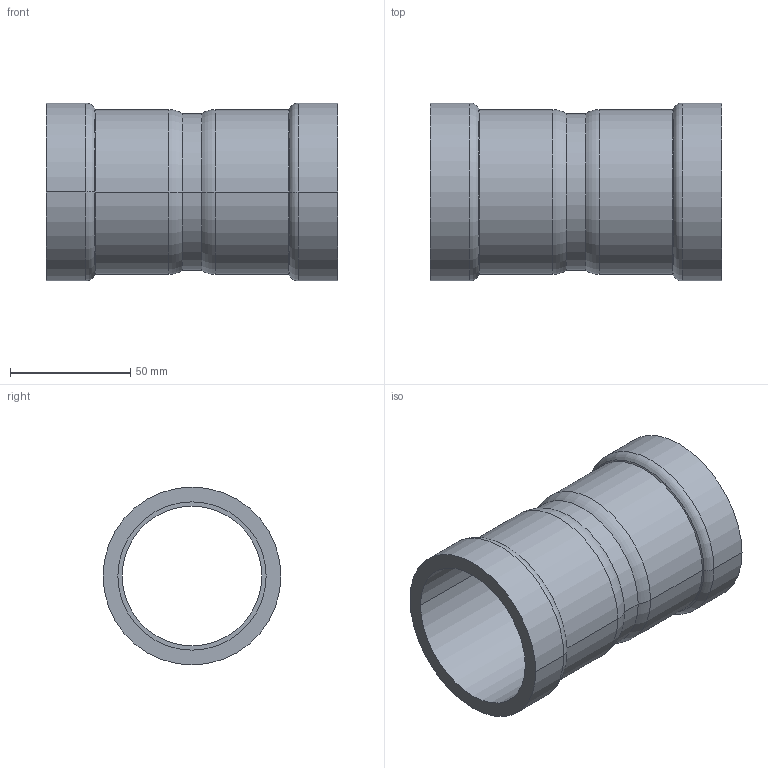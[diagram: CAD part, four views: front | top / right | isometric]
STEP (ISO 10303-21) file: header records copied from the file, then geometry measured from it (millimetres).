
FILE_DESCRIPTION(('Creo Elements/Direct Modeling STEP Export'),'2;1');
FILE_NAME('C9401_2.stp','2020-06-08T13:59:45',(''),(''),'PTC Creo Elements/Direct Modeling STEP processor for AP214 (Solid Model)','PTC Creo Elements/Direct Modeling 19.0C 15-Aug-2015 (C) Parametric Technology GmbH','');
FILE_SCHEMA(('AUTOMOTIVE_DESIGN { 1 0 10303 214 1 1 1 1 }'));
Length unit declared in the file: millimetre
Products named in the file (1): 9401_2
Bounding box: 121.04 x 73.8 x 73.8 mm (x, y, z)
Volume: 107915.8 mm3; surface area: 53684.1 mm2
Topology: 1 solids, 1 shells, 32 faces, 64 edges, 36 vertices
Faces by surface type: cylinder 16, torus 8, cone 4, plane 4
Entity records: 758 total; most frequent: DIRECTION 134, ORIENTED_EDGE 128, CARTESIAN_POINT 113, EDGE_CURVE 64, AXIS2_PLACEMENT_3D 57, VERTEX_POINT 36, EDGE_LOOP 36, FACE_OUTER_BOUND 32
